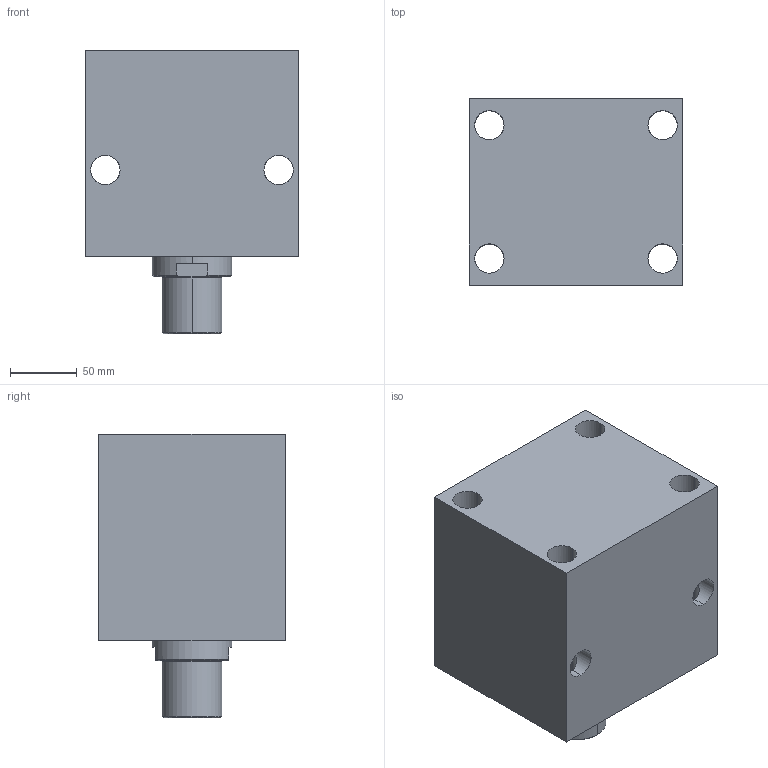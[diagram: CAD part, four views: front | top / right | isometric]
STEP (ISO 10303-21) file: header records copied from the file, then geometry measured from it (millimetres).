
FILE_DESCRIPTION (( 'STEP AP203' ), '1' );
FILE_NAME ('Block cylinder B01C-975M.STEP', '2022-07-09T18:22:08', ( '' ), ( '' ), 'SwSTEP 2.0', 'SolidWorks 2017', '' );
FILE_SCHEMA (( 'CONFIG_CONTROL_DESIGN' ));
Length unit declared in the file: millimetre
Products named in the file (3): Body_ 975M_50ST; Piston _975M; Block cylinder B01C-975M
Assembly tree (2 placements, depth 2):
  Block cylinder B01C-975M
    Body_ 975M_50ST
    Piston _975M
Bounding box: 160 x 140 x 213 mm (x, y, z)
Volume: 3429254.6 mm3; surface area: 242409 mm2
Topology: 2 solids, 2 shells, 352 faces, 960 edges, 628 vertices
Faces by surface type: plane 150, bspline 148, cylinder 46, cone 8
Entity records: 17377 total; most frequent: CARTESIAN_POINT 9229, ORIENTED_EDGE 1912, DIRECTION 1110, EDGE_CURVE 956, VERTEX_POINT 628, LINE 556, VECTOR 556, EDGE_LOOP 392
